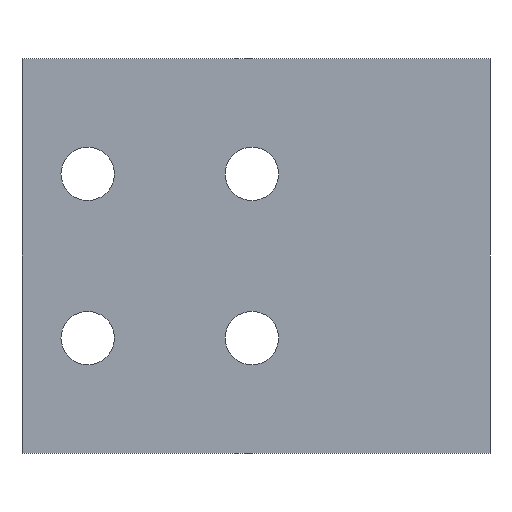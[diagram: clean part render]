
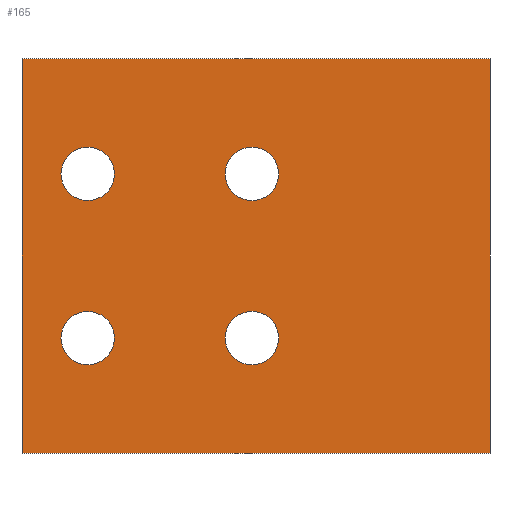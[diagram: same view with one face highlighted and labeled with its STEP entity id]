
A CAD part, front view. The second image highlights one B-rep face of the part: STEP entity #165.
In plain terms, the highlighted planar face has unit normal (0, -1, 0).
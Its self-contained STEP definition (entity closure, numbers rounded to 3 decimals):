
#103 = EDGE_CURVE( '', #111, #189, #269, .T. );
#107 = VERTEX_POINT( '', #278 );
#109 = VERTEX_POINT( '', #280 );
#111 = VERTEX_POINT( '', #282 );
#119 = EDGE_CURVE( '', #173, #175, #292, .T. );
#121 = EDGE_CURVE( '', #245, #223, #294, .T. );
#127 = EDGE_CURVE( '', #109, #107, #300, .T. );
#129 = VERTEX_POINT( '', #302 );
#137 = VERTEX_POINT( '', #310 );
#141 = EDGE_CURVE( '', #151, #107, #315, .T. );
#151 = VERTEX_POINT( '', #325 );
#153 = EDGE_CURVE( '', #189, #111, #327, .T. );
#159 = EDGE_CURVE( '', #129, #109, #333, .T. );
#163 = EDGE_CURVE( '', #175, #173, #337, .T. );
#165 = ADVANCED_FACE( '', ( #339, #340, #341, #342, #343 ), #344, .T. );
#169 = VERTEX_POINT( '', #348 );
#173 = VERTEX_POINT( '', #353 );
#175 = VERTEX_POINT( '', #355 );
#181 = EDGE_CURVE( '', #223, #245, #361, .T. );
#189 = VERTEX_POINT( '', #371 );
#213 = EDGE_CURVE( '', #169, #137, #398, .T. );
#217 = EDGE_CURVE( '', #129, #151, #403, .T. );
#223 = VERTEX_POINT( '', #410 );
#245 = VERTEX_POINT( '', #433 );
#247 = EDGE_CURVE( '', #137, #169, #435, .T. );
#269 = CIRCLE( '', #449, 3.25 );
#278 = CARTESIAN_POINT( '', ( -28.5, 0., -24. ) );
#280 = CARTESIAN_POINT( '', ( -28.5, 0., 24. ) );
#282 = CARTESIAN_POINT( '', ( 2.75, 0., -10. ) );
#292 = CIRCLE( '', #473, 3.25 );
#294 = CIRCLE( '', #476, 3.25 );
#300 = LINE( '', #486, #487 );
#302 = CARTESIAN_POINT( '', ( 28.5, 0., 24. ) );
#310 = CARTESIAN_POINT( '', ( -23.75, 0., 10. ) );
#315 = LINE( '', #505, #506 );
#325 = CARTESIAN_POINT( '', ( 28.5, 0., -24. ) );
#327 = CIRCLE( '', #525, 3.25 );
#333 = LINE( '', #535, #536 );
#337 = CIRCLE( '', #543, 3.25 );
#339 = FACE_BOUND( '', #545, .T. );
#340 = FACE_BOUND( '', #546, .T. );
#341 = FACE_BOUND( '', #547, .T. );
#342 = FACE_BOUND( '', #548, .T. );
#343 = FACE_OUTER_BOUND( '', #549, .T. );
#344 = PLANE( '', #550 );
#348 = CARTESIAN_POINT( '', ( -17.25, 0., 10. ) );
#353 = CARTESIAN_POINT( '', ( -23.75, 0., -10. ) );
#355 = CARTESIAN_POINT( '', ( -17.25, 0., -10. ) );
#361 = CIRCLE( '', #568, 3.25 );
#371 = CARTESIAN_POINT( '', ( -3.75, 0., -10. ) );
#398 = CIRCLE( '', #613, 3.25 );
#403 = LINE( '', #619, #620 );
#410 = CARTESIAN_POINT( '', ( 2.75, 0., 10. ) );
#433 = CARTESIAN_POINT( '', ( -3.75, 0., 10. ) );
#435 = CIRCLE( '', #668, 3.25 );
#449 = AXIS2_PLACEMENT_3D( '', #673, #674, #675 );
#473 = AXIS2_PLACEMENT_3D( '', #708, #709, #710 );
#476 = AXIS2_PLACEMENT_3D( '', #711, #712, #713 );
#486 = CARTESIAN_POINT( '', ( -28.5, 0., 24. ) );
#487 = VECTOR( '', #718, 1. );
#505 = CARTESIAN_POINT( '', ( 28.5, 0., -24. ) );
#506 = VECTOR( '', #728, 1. );
#525 = AXIS2_PLACEMENT_3D( '', #732, #733, #734 );
#535 = CARTESIAN_POINT( '', ( 28.5, 0., 24. ) );
#536 = VECTOR( '', #739, 1. );
#543 = AXIS2_PLACEMENT_3D( '', #741, #742, #743 );
#545 = EDGE_LOOP( '', ( #745, #746 ) );
#546 = EDGE_LOOP( '', ( #747, #748 ) );
#547 = EDGE_LOOP( '', ( #749, #750 ) );
#548 = EDGE_LOOP( '', ( #751, #752 ) );
#549 = EDGE_LOOP( '', ( #753, #754, #755, #756 ) );
#550 = AXIS2_PLACEMENT_3D( '', #757, #758, #759 );
#568 = AXIS2_PLACEMENT_3D( '', #768, #769, #770 );
#613 = AXIS2_PLACEMENT_3D( '', #821, #822, #823 );
#619 = CARTESIAN_POINT( '', ( 28.5, 0., 24. ) );
#620 = VECTOR( '', #832, 1. );
#668 = AXIS2_PLACEMENT_3D( '', #864, #865, #866 );
#673 = CARTESIAN_POINT( '', ( -0.5, 0., -10. ) );
#674 = DIRECTION( '', ( 0., 1., 0. ) );
#675 = DIRECTION( '', ( -1., 0., 0. ) );
#708 = CARTESIAN_POINT( '', ( -20.5, 0., -10. ) );
#709 = DIRECTION( '', ( 0., 1., 0. ) );
#710 = DIRECTION( '', ( -1., 0., 0. ) );
#711 = CARTESIAN_POINT( '', ( -0.5, 0., 10. ) );
#712 = DIRECTION( '', ( 0., 1., 0. ) );
#713 = DIRECTION( '', ( -1., 0., 0. ) );
#718 = DIRECTION( '', ( 0., 0., -1. ) );
#728 = DIRECTION( '', ( -1., 0., 0. ) );
#732 = CARTESIAN_POINT( '', ( -0.5, 0., -10. ) );
#733 = DIRECTION( '', ( 0., 1., 0. ) );
#734 = DIRECTION( '', ( -1., 0., 0. ) );
#739 = DIRECTION( '', ( -1., 0., 0. ) );
#741 = CARTESIAN_POINT( '', ( -20.5, 0., -10. ) );
#742 = DIRECTION( '', ( 0., 1., 0. ) );
#743 = DIRECTION( '', ( -1., 0., 0. ) );
#745 = ORIENTED_EDGE( '', *, *, #181, .T. );
#746 = ORIENTED_EDGE( '', *, *, #121, .T. );
#747 = ORIENTED_EDGE( '', *, *, #213, .T. );
#748 = ORIENTED_EDGE( '', *, *, #247, .T. );
#749 = ORIENTED_EDGE( '', *, *, #103, .T. );
#750 = ORIENTED_EDGE( '', *, *, #153, .T. );
#751 = ORIENTED_EDGE( '', *, *, #163, .T. );
#752 = ORIENTED_EDGE( '', *, *, #119, .T. );
#753 = ORIENTED_EDGE( '', *, *, #127, .T. );
#754 = ORIENTED_EDGE( '', *, *, #141, .F. );
#755 = ORIENTED_EDGE( '', *, *, #217, .F. );
#756 = ORIENTED_EDGE( '', *, *, #159, .T. );
#757 = CARTESIAN_POINT( '', ( 28.5, 0., 24. ) );
#758 = DIRECTION( '', ( 0., -1., 0. ) );
#759 = DIRECTION( '', ( 0., 0., 1. ) );
#768 = CARTESIAN_POINT( '', ( -0.5, 0., 10. ) );
#769 = DIRECTION( '', ( 0., 1., 0. ) );
#770 = DIRECTION( '', ( -1., 0., 0. ) );
#821 = CARTESIAN_POINT( '', ( -20.5, 0., 10. ) );
#822 = DIRECTION( '', ( 0., 1., 0. ) );
#823 = DIRECTION( '', ( -1., 0., 0. ) );
#832 = DIRECTION( '', ( 0., 0., -1. ) );
#864 = CARTESIAN_POINT( '', ( -20.5, 0., 10. ) );
#865 = DIRECTION( '', ( 0., 1., 0. ) );
#866 = DIRECTION( '', ( -1., 0., 0. ) );
